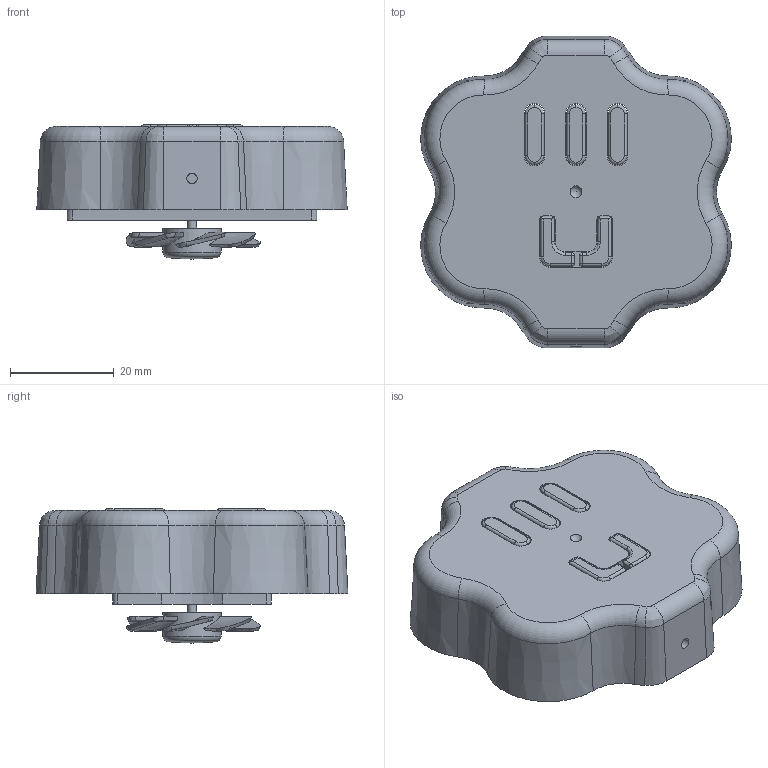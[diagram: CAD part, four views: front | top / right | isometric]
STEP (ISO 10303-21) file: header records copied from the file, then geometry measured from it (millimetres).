
FILE_DESCRIPTION(/* description */ (''),/* implementation_level */ '2;1');
FILE_NAME(/* name */ '教师组样题4.stp',/* time_stamp */ '2023-04-14T23:10:17+08:00',/* author */ (''),/* organization */ (''),/* preprocessor_version */ 'ST-DEVELOPER v16.7',/* originating_system */ 'SIEMENS PLM Software NX 12.0',/* authorisation */ '');
FILE_SCHEMA (('AUTOMOTIVE_DESIGN { 1 0 10303 214 3 1 1 1 }'));
Length unit declared in the file: millimetre
Products named in the file (1): 教师组样题4_stp
Bounding box: 59.7 x 60 x 25.8 mm (x, y, z)
Volume: 15910.2 mm3; surface area: 18489.9 mm2
Topology: 8 solids, 9 shells, 380 faces, 958 edges, 608 vertices
Faces by surface type: plane 121, cylinder 96, bspline 61, torus 53, cone 37, sphere 12
Full cylindrical faces by diameter (mm): 1.764 x2, 2 x1, 2.164 x1, 3 x4, 3.92 x1, 4 x5, 6 x4, 8.96 x1, 11.2 x1
Entity records: 13945 total; most frequent: CARTESIAN_POINT 5175, ORIENTED_EDGE 1828, DIRECTION 1789, EDGE_CURVE 914, AXIS2_PLACEMENT_3D 726, VERTEX_POINT 594, EDGE_LOOP 442, CIRCLE 399
